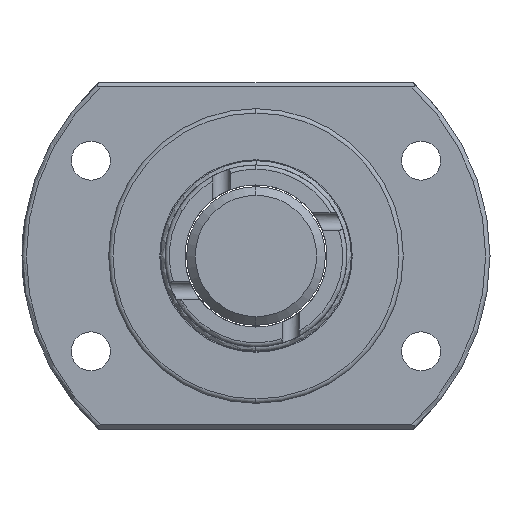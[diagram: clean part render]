
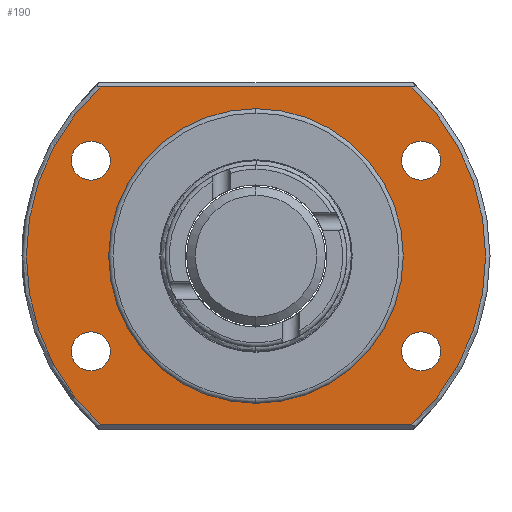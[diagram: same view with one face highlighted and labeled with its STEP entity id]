
A CAD part, left-side view. The second image highlights one B-rep face of the part: STEP entity #190.
In plain terms, the highlighted planar face has unit normal (-1, 0, 0).
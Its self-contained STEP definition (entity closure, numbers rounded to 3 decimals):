
#58 = AXIS2_PLACEMENT_3D ( 'NONE', #3639, #1862, #3328 ) ;
#85 = AXIS2_PLACEMENT_3D ( 'NONE', #3886, #2088, #281 ) ;
#109 = DIRECTION ( 'NONE',  ( 0., 0., -1. ) ) ;
#126 = CARTESIAN_POINT ( 'NONE',  ( 0., -19.053, 8.75 ) ) ;
#128 = CARTESIAN_POINT ( 'NONE',  ( 0., -17.385, -19.5 ) ) ;
#129 = ORIENTED_EDGE ( 'NONE', *, *, #1262, .T. ) ;
#153 = EDGE_LOOP ( 'NONE', ( #3346, #1280 ) ) ;
#190 = ADVANCED_FACE ( 'NONE', ( #3561, #2808, #860, #1970, #350, #3460 ), #1460, .F. ) ;
#257 = AXIS2_PLACEMENT_3D ( 'NONE', #627, #1851, #1531 ) ;
#263 = VERTEX_POINT ( 'NONE', #808 ) ;
#264 = DIRECTION ( 'NONE',  ( 0., 0., -1. ) ) ;
#268 = DIRECTION ( 'NONE',  ( 1., 0., 0. ) ) ;
#281 = DIRECTION ( 'NONE',  ( 0., 0., -1. ) ) ;
#331 = VECTOR ( 'NONE', #3150, 1000. ) ;
#334 = CIRCLE ( 'NONE', #2086, 26.5 ) ;
#349 = CARTESIAN_POINT ( 'NONE',  ( 0., 19.053, -13.25 ) ) ;
#350 = FACE_BOUND ( 'NONE', #2162, .T. ) ;
#375 = VERTEX_POINT ( 'NONE', #126 ) ;
#387 = CIRCLE ( 'NONE', #3710, 2.25 ) ;
#419 = CARTESIAN_POINT ( 'NONE',  ( 0., -17.944, -19.5 ) ) ;
#421 = EDGE_LOOP ( 'NONE', ( #2362, #1774 ) ) ;
#489 = DIRECTION ( 'NONE',  ( 0., 1., 0. ) ) ;
#627 = CARTESIAN_POINT ( 'NONE',  ( 0., 0., 0. ) ) ;
#654 = CARTESIAN_POINT ( 'NONE',  ( 0., 19.053, 8.75 ) ) ;
#661 = EDGE_LOOP ( 'NONE', ( #1640, #2507 ) ) ;
#667 = DIRECTION ( 'NONE',  ( 0., 0., -1. ) ) ;
#726 = DIRECTION ( 'NONE',  ( -1., 0., 0. ) ) ;
#731 = CARTESIAN_POINT ( 'NONE',  ( 0., -19.053, -8.75 ) ) ;
#758 = CARTESIAN_POINT ( 'NONE',  ( 0., 19.053, 11. ) ) ;
#801 = LINE ( 'NONE', #2927, #904 ) ;
#808 = CARTESIAN_POINT ( 'NONE',  ( 0., -19.053, -13.25 ) ) ;
#815 = AXIS2_PLACEMENT_3D ( 'NONE', #3688, #1319, #667 ) ;
#818 = ORIENTED_EDGE ( 'NONE', *, *, #2891, .F. ) ;
#847 = CIRCLE ( 'NONE', #897, 2.25 ) ;
#860 = FACE_BOUND ( 'NONE', #661, .T. ) ;
#888 = AXIS2_PLACEMENT_3D ( 'NONE', #1677, #726, #1063 ) ;
#897 = AXIS2_PLACEMENT_3D ( 'NONE', #2830, #2248, #1955 ) ;
#904 = VECTOR ( 'NONE', #489, 1000. ) ;
#914 = CARTESIAN_POINT ( 'NONE',  ( 0., 19.053, -8.75 ) ) ;
#931 = AXIS2_PLACEMENT_3D ( 'NONE', #2340, #268, #3563 ) ;
#1052 = CIRCLE ( 'NONE', #2344, 2.25 ) ;
#1063 = DIRECTION ( 'NONE',  ( 0., 0., -1. ) ) ;
#1133 = DIRECTION ( 'NONE',  ( 1., 0., 0. ) ) ;
#1146 = CARTESIAN_POINT ( 'NONE',  ( 0., 0., -17. ) ) ;
#1154 = LINE ( 'NONE', #128, #331 ) ;
#1164 = EDGE_CURVE ( 'NONE', #1683, #3374, #2010, .T. ) ;
#1168 = EDGE_CURVE ( 'NONE', #1984, #3617, #3013, .T. ) ;
#1179 = EDGE_LOOP ( 'NONE', ( #2272, #2607, #3715, #129 ) ) ;
#1186 = EDGE_CURVE ( 'NONE', #3617, #1984, #387, .T. ) ;
#1217 = AXIS2_PLACEMENT_3D ( 'NONE', #2374, #3545, #3232 ) ;
#1244 = EDGE_CURVE ( 'NONE', #2635, #263, #1910, .T. ) ;
#1251 = CARTESIAN_POINT ( 'NONE',  ( 0., -17.944, 19.5 ) ) ;
#1262 = EDGE_CURVE ( 'NONE', #2739, #1683, #801, .T. ) ;
#1280 = ORIENTED_EDGE ( 'NONE', *, *, #2026, .T. ) ;
#1283 = VERTEX_POINT ( 'NONE', #1146 ) ;
#1319 = DIRECTION ( 'NONE',  ( 1., 0., 0. ) ) ;
#1362 = DIRECTION ( 'NONE',  ( 1., 0., 0. ) ) ;
#1404 = CARTESIAN_POINT ( 'NONE',  ( 0., 17.944, 19.5 ) ) ;
#1460 = PLANE ( 'NONE',  #931 ) ;
#1482 = CIRCLE ( 'NONE', #3044, 17. ) ;
#1531 = DIRECTION ( 'NONE',  ( 0., 0., -1. ) ) ;
#1640 = ORIENTED_EDGE ( 'NONE', *, *, #1168, .T. ) ;
#1677 = CARTESIAN_POINT ( 'NONE',  ( 0., 0., 0. ) ) ;
#1682 = CARTESIAN_POINT ( 'NONE',  ( 0., 17.944, -19.5 ) ) ;
#1683 = VERTEX_POINT ( 'NONE', #1404 ) ;
#1731 = DIRECTION ( 'NONE',  ( 0., 0., -1. ) ) ;
#1774 = ORIENTED_EDGE ( 'NONE', *, *, #3569, .T. ) ;
#1851 = DIRECTION ( 'NONE',  ( -1., 0., 0. ) ) ;
#1862 = DIRECTION ( 'NONE',  ( 1., 0., 0. ) ) ;
#1910 = CIRCLE ( 'NONE', #1217, 2.25 ) ;
#1922 = DIRECTION ( 'NONE',  ( -1., 0., 0. ) ) ;
#1955 = DIRECTION ( 'NONE',  ( 0., 0., -1. ) ) ;
#1970 = FACE_BOUND ( 'NONE', #421, .T. ) ;
#1984 = VERTEX_POINT ( 'NONE', #349 ) ;
#2010 = CIRCLE ( 'NONE', #888, 26.5 ) ;
#2026 = EDGE_CURVE ( 'NONE', #2737, #375, #847, .T. ) ;
#2050 = CIRCLE ( 'NONE', #85, 2.25 ) ;
#2086 = AXIS2_PLACEMENT_3D ( 'NONE', #2995, #3311, #2749 ) ;
#2088 = DIRECTION ( 'NONE',  ( 1., 0., 0. ) ) ;
#2162 = EDGE_LOOP ( 'NONE', ( #818, #3784 ) ) ;
#2248 = DIRECTION ( 'NONE',  ( 1., 0., 0. ) ) ;
#2272 = ORIENTED_EDGE ( 'NONE', *, *, #1164, .T. ) ;
#2340 = CARTESIAN_POINT ( 'NONE',  ( 0., 0., 0. ) ) ;
#2344 = AXIS2_PLACEMENT_3D ( 'NONE', #758, #3492, #264 ) ;
#2362 = ORIENTED_EDGE ( 'NONE', *, *, #2653, .T. ) ;
#2374 = CARTESIAN_POINT ( 'NONE',  ( 0., -19.053, -11. ) ) ;
#2470 = EDGE_CURVE ( 'NONE', #263, #2635, #3107, .T. ) ;
#2507 = ORIENTED_EDGE ( 'NONE', *, *, #1186, .T. ) ;
#2509 = AXIS2_PLACEMENT_3D ( 'NONE', #2855, #1362, #2613 ) ;
#2529 = VERTEX_POINT ( 'NONE', #654 ) ;
#2573 = CARTESIAN_POINT ( 'NONE',  ( 0., 19.053, 13.25 ) ) ;
#2603 = EDGE_CURVE ( 'NONE', #3374, #3728, #1154, .T. ) ;
#2607 = ORIENTED_EDGE ( 'NONE', *, *, #2603, .T. ) ;
#2613 = DIRECTION ( 'NONE',  ( 0., 0., -1. ) ) ;
#2635 = VERTEX_POINT ( 'NONE', #731 ) ;
#2653 = EDGE_CURVE ( 'NONE', #2529, #3401, #1052, .T. ) ;
#2696 = EDGE_CURVE ( 'NONE', #375, #2737, #2050, .T. ) ;
#2737 = VERTEX_POINT ( 'NONE', #3301 ) ;
#2739 = VERTEX_POINT ( 'NONE', #1251 ) ;
#2749 = DIRECTION ( 'NONE',  ( 0., 0., -1. ) ) ;
#2785 = VERTEX_POINT ( 'NONE', #3042 ) ;
#2808 = FACE_BOUND ( 'NONE', #153, .T. ) ;
#2830 = CARTESIAN_POINT ( 'NONE',  ( 0., -19.053, 11. ) ) ;
#2855 = CARTESIAN_POINT ( 'NONE',  ( 0., 19.053, -11. ) ) ;
#2878 = CIRCLE ( 'NONE', #58, 2.25 ) ;
#2891 = EDGE_CURVE ( 'NONE', #1283, #2785, #1482, .T. ) ;
#2927 = CARTESIAN_POINT ( 'NONE',  ( 0., 17.385, 19.5 ) ) ;
#2995 = CARTESIAN_POINT ( 'NONE',  ( 0., 0., 0. ) ) ;
#3013 = CIRCLE ( 'NONE', #2509, 2.25 ) ;
#3042 = CARTESIAN_POINT ( 'NONE',  ( 0., 0., 17. ) ) ;
#3044 = AXIS2_PLACEMENT_3D ( 'NONE', #3084, #1922, #109 ) ;
#3048 = ORIENTED_EDGE ( 'NONE', *, *, #2470, .T. ) ;
#3084 = CARTESIAN_POINT ( 'NONE',  ( 0., 0., 0. ) ) ;
#3107 = CIRCLE ( 'NONE', #815, 2.25 ) ;
#3123 = ORIENTED_EDGE ( 'NONE', *, *, #1244, .T. ) ;
#3150 = DIRECTION ( 'NONE',  ( 0., -1., 0. ) ) ;
#3232 = DIRECTION ( 'NONE',  ( 0., 0., -1. ) ) ;
#3301 = CARTESIAN_POINT ( 'NONE',  ( 0., -19.053, 13.25 ) ) ;
#3311 = DIRECTION ( 'NONE',  ( -1., 0., 0. ) ) ;
#3328 = DIRECTION ( 'NONE',  ( 0., 0., -1. ) ) ;
#3346 = ORIENTED_EDGE ( 'NONE', *, *, #2696, .T. ) ;
#3356 = CIRCLE ( 'NONE', #257, 17. ) ;
#3374 = VERTEX_POINT ( 'NONE', #1682 ) ;
#3401 = VERTEX_POINT ( 'NONE', #2573 ) ;
#3460 = FACE_OUTER_BOUND ( 'NONE', #1179, .T. ) ;
#3492 = DIRECTION ( 'NONE',  ( 1., 0., 0. ) ) ;
#3534 = CARTESIAN_POINT ( 'NONE',  ( 0., 19.053, -11. ) ) ;
#3545 = DIRECTION ( 'NONE',  ( 1., 0., 0. ) ) ;
#3561 = FACE_BOUND ( 'NONE', #3668, .T. ) ;
#3563 = DIRECTION ( 'NONE',  ( 0., 0., -1. ) ) ;
#3569 = EDGE_CURVE ( 'NONE', #3401, #2529, #2878, .T. ) ;
#3598 = EDGE_CURVE ( 'NONE', #3728, #2739, #334, .T. ) ;
#3606 = EDGE_CURVE ( 'NONE', #2785, #1283, #3356, .T. ) ;
#3617 = VERTEX_POINT ( 'NONE', #914 ) ;
#3639 = CARTESIAN_POINT ( 'NONE',  ( 0., 19.053, 11. ) ) ;
#3668 = EDGE_LOOP ( 'NONE', ( #3048, #3123 ) ) ;
#3688 = CARTESIAN_POINT ( 'NONE',  ( 0., -19.053, -11. ) ) ;
#3710 = AXIS2_PLACEMENT_3D ( 'NONE', #3534, #1133, #1731 ) ;
#3715 = ORIENTED_EDGE ( 'NONE', *, *, #3598, .T. ) ;
#3728 = VERTEX_POINT ( 'NONE', #419 ) ;
#3784 = ORIENTED_EDGE ( 'NONE', *, *, #3606, .F. ) ;
#3886 = CARTESIAN_POINT ( 'NONE',  ( 0., -19.053, 11. ) ) ;
